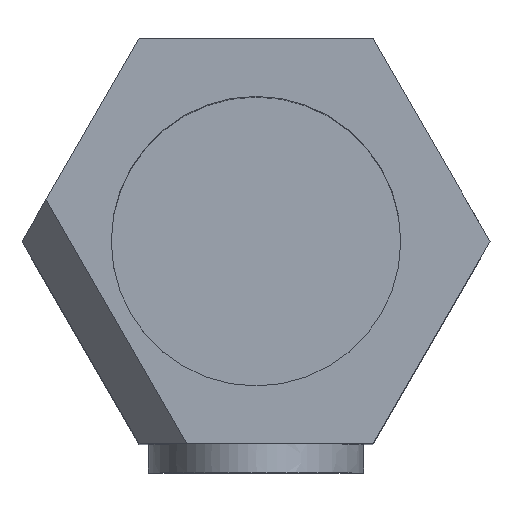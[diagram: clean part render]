
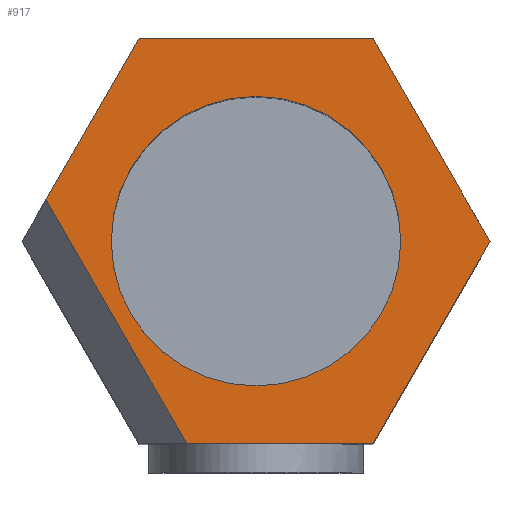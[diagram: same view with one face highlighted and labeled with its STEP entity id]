
A CAD part, top view. The second image highlights one B-rep face of the part: STEP entity #917.
In plain terms, the highlighted planar face has unit normal (0, 0, 1).
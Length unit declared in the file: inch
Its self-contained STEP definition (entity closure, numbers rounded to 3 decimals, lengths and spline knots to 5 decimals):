
#275=CARTESIAN_POINT('',(0.35,0.0,0.0));
#276=VERTEX_POINT('',#275);
#277=CARTESIAN_POINT('',(0.0,0.0,0.0));
#278=DIRECTION('',(0.0,0.0,1.0));
#279=DIRECTION('',(1.0,0.0,0.0));
#280=AXIS2_PLACEMENT_3D('',#277,#278,#279);
#281=CIRCLE('',#280,0.35);
#282=EDGE_CURVE('',#276,#276,#281,.T.);
#550=CARTESIAN_POINT('',(0.5658,0.,0.0));
#551=VERTEX_POINT('',#550);
#552=CARTESIAN_POINT('',(0.2829,0.49,0.0));
#553=VERTEX_POINT('',#552);
#554=CARTESIAN_POINT('',(0.5658,0.0,0.0));
#555=DIRECTION('',(-0.5,0.866,0.0));
#556=VECTOR('',#555,1.0);
#557=LINE('',#554,#556);
#558=EDGE_CURVE('',#551,#553,#557,.T.);
#660=CARTESIAN_POINT('',(-0.16743,-0.49,0.0));
#661=VERTEX_POINT('',#660);
#662=CARTESIAN_POINT('',(0.2829,-0.49,0.0));
#663=VERTEX_POINT('',#662);
#664=CARTESIAN_POINT('',(-0.2829,-0.49,0.0));
#665=DIRECTION('',(1.0,0.0,0.0));
#666=VECTOR('',#665,1.0);
#667=LINE('',#664,#666);
#668=EDGE_CURVE('',#661,#663,#667,.T.);
#786=CARTESIAN_POINT('',(0.2829,-0.49,0.0));
#787=DIRECTION('',(0.5,0.866,0.0));
#788=VECTOR('',#787,1.);
#789=LINE('',#786,#788);
#790=EDGE_CURVE('',#663,#551,#789,.T.);
#807=CARTESIAN_POINT('',(-0.2829,0.49,0.0));
#808=VERTEX_POINT('',#807);
#809=CARTESIAN_POINT('',(0.2829,0.49,0.0));
#810=DIRECTION('',(-1.0,0.0,0.0));
#811=VECTOR('',#810,1.0);
#812=LINE('',#809,#811);
#813=EDGE_CURVE('',#553,#808,#812,.T.);
#839=CARTESIAN_POINT('',(-0.50807,0.1,0.0));
#840=VERTEX_POINT('',#839);
#847=CARTESIAN_POINT('',(-0.2829,0.49,0.0));
#848=DIRECTION('',(-0.5,-0.866,0.0));
#849=VECTOR('',#848,1.);
#850=LINE('',#847,#849);
#851=EDGE_CURVE('',#808,#840,#850,.T.);
#896=CARTESIAN_POINT('',(0.0,0.0,0.0));
#897=DIRECTION('',(0.0,0.0,1.0));
#898=DIRECTION('',(1.0,0.0,0.0));
#899=AXIS2_PLACEMENT_3D('',#896,#897,#898);
#900=PLANE('',#899);
#901=ORIENTED_EDGE('',*,*,#851,.T.);
#902=CARTESIAN_POINT('',(-0.1963,-0.44,0.0));
#903=DIRECTION('',(0.5,-0.866,0.0));
#904=VECTOR('',#903,1.0);
#905=LINE('',#902,#904);
#906=EDGE_CURVE('',#840,#661,#905,.T.);
#907=ORIENTED_EDGE('',*,*,#906,.T.);
#908=ORIENTED_EDGE('',*,*,#668,.T.);
#909=ORIENTED_EDGE('',*,*,#790,.T.);
#910=ORIENTED_EDGE('',*,*,#558,.T.);
#911=ORIENTED_EDGE('',*,*,#813,.T.);
#912=EDGE_LOOP('',(#901,#907,#908,#909,#910,#911));
#913=FACE_OUTER_BOUND('',#912,.T.);
#914=ORIENTED_EDGE('',*,*,#282,.F.);
#915=EDGE_LOOP('',(#914));
#916=FACE_BOUND('',#915,.T.);
#917=ADVANCED_FACE('',(#913,#916),#900,.T.);
